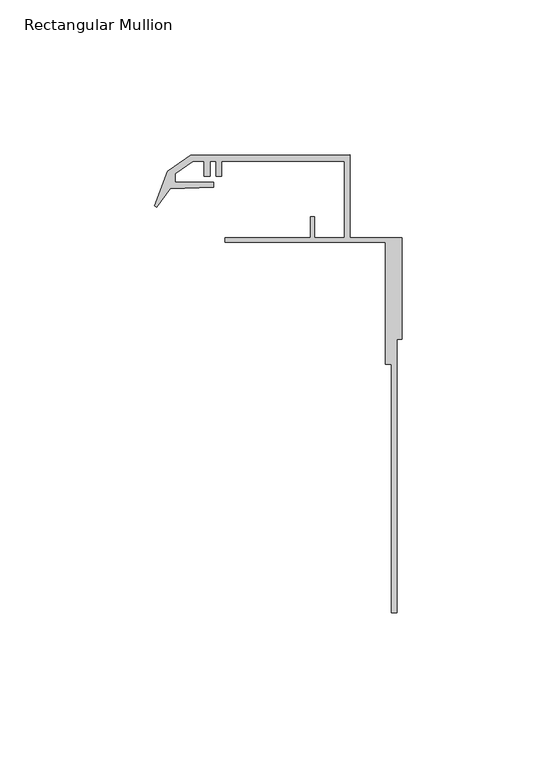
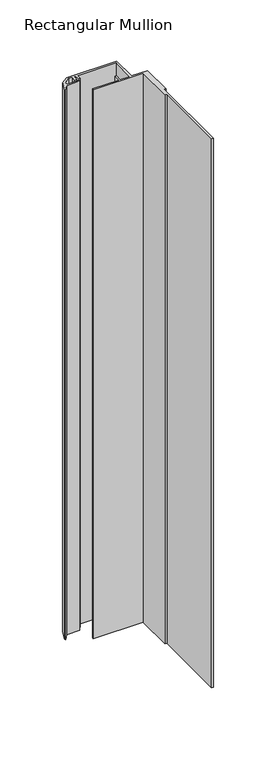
"""IFC4 building model written with IfcOpenShell, lengths in millimetres: member geometry, Rectangular Mullion : Danpal_VRS_Bottom-Mullion."""

from ifc_helpers import new_model, si_unit, frame, origin, place, context, project, spatial, polyline, outline, extrude, source, transform, mapped, element, save


def rectangular_mullion_955bdfa4(model_context):
    return source(origin(), model_context, "Body", "SweptSolid", [
        extrude(outline(polyline([(-79.2216912, -6.0092055), (-79.8611478, -5.5368244), (-75.6571036, 5.6694173), (-68.3166726, 10.8161429), (-16.7984887, 10.8734616), (-16.7999993, -15.8303605), (0.0, -15.8313106), (-0.0018572, -48.6692538), (-1.6831072, -48.6691587), (-1.6880948, -136.8582832), (-3.4068448, -136.858186), (-3.4023089, -56.6573743), (-5.3023089, -56.6572668), (-5.3000793, -17.2330591), (-57.2163694, -17.230123), (-57.2163694, -15.8280747), (-29.6, -15.8296366), (-29.5996176, -9.069761), (-28.2996176, -9.0698346), (-28.3, -15.8297101), (-18.6, -15.8302587), (-18.5986033, 8.8647387), (-58.2791429, 8.8669829), (-58.2791429, 4.0153253), (-60.1494911, 4.0153253), (-60.1494911, 8.8671961), (-62.0481149, 8.8671961), (-62.0481149, 4.0153253), (-63.9180616, 4.0153253), (-63.9180616, 8.8673018), (-67.5141123, 8.8675052), (-73.2988278, 4.8793924), (-73.2989907, 1.9992875), (-60.8734145, 1.9985848), (-60.8734984, 0.5155366), (-74.8674586, -0.1149337), (-79.2216912, -6.0092055)])), frame((0.0, 0.0, -601.0), z_axis=(0.0, 0.0, 1.0), x_axis=(1.0, 0.0, 0.0)), (0.0, 0.0, 1.0), 601.0),
    ])


if __name__ == "__main__":
    model = new_model("IFC4")
    model_context = context("Model", 3, world=origin())
    ifc_project = project(units=[si_unit("LENGTHUNIT", "METRE", prefix="MILLI")], contexts=[model_context])
    site = spatial("IfcSite", under=ifc_project)
    building = spatial("IfcBuilding", under=site)
    placement = place(None, origin())
    rectangular_mullion_shape = rectangular_mullion_955bdfa4(model_context)
    element("IfcMember", 1, ObjectType="Rectangular Mullion : Danpal_VRS_Bottom-Mullion", at=placement, inside=building, context=model_context, shape_type="MappedRepresentation", body=[
        mapped(rectangular_mullion_shape, transform((0.0, 0.0, 0.0), x_axis=(1.0, 0.0, 0.0), y_axis=(0.0, 1.0, 0.0), z_axis=(0.0, 0.0, 1.0))),
    ])
    save(model, "model.ifc")
